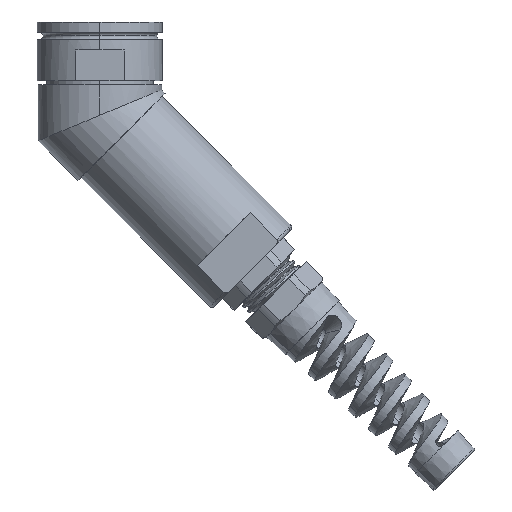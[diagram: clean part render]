
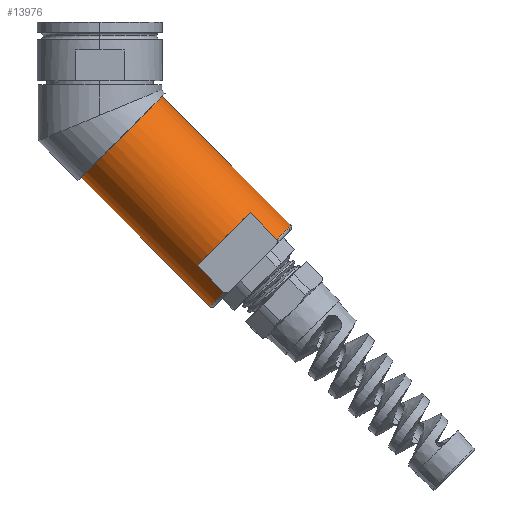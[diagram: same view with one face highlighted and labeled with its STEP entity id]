
A CAD part, left-side view. The second image highlights one B-rep face of the part: STEP entity #13976.
In plain terms, the highlighted cylindrical face has radius 17.691 mm (diameter 35.382 mm), a partial arc.
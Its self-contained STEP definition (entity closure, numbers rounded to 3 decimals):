
#348 = DIRECTION ( 'NONE',  ( 0., -0.707, -0.707 ) ) ;
#579 = ORIENTED_EDGE ( 'NONE', *, *, #741, .T. ) ;
#689 = DIRECTION ( 'NONE',  ( 0., 0.707, 0.707 ) ) ;
#741 = EDGE_CURVE ( 'NONE', #14607, #3792, #10636, .T. ) ;
#964 = VERTEX_POINT ( 'NONE', #9807 ) ;
#1432 = CARTESIAN_POINT ( 'NONE',  ( -13.399, -38.303, -77.766 ) ) ;
#1998 = EDGE_CURVE ( 'NONE', #964, #5465, #7662, .T. ) ;
#2033 = DIRECTION ( 'NONE',  ( 0., -0.707, 0.707 ) ) ;
#2212 = VECTOR ( 'NONE', #10163, 1000. ) ;
#2358 = CIRCLE ( 'NONE', #10266, 17.691 ) ;
#2501 = CARTESIAN_POINT ( 'NONE',  ( 0., -33.962, -82.107 ) ) ;
#2654 = AXIS2_PLACEMENT_3D ( 'NONE', #9694, #14736, #11108 ) ;
#2717 = EDGE_LOOP ( 'NONE', ( #5818, #579, #12016, #8817, #12590, #12023, #12906, #5721 ) ) ;
#2787 = CARTESIAN_POINT ( 'NONE',  ( -13.399, -30.041, -69.504 ) ) ;
#2887 = DIRECTION ( 'NONE',  ( 0., -0.707, 0.707 ) ) ;
#2912 = CIRCLE ( 'NONE', #13988, 17.691 ) ;
#3131 = VERTEX_POINT ( 'NONE', #13291 ) ;
#3379 = LINE ( 'NONE', #9711, #7545 ) ;
#3653 = LINE ( 'NONE', #10159, #8720 ) ;
#3792 = VERTEX_POINT ( 'NONE', #1432 ) ;
#3907 = DIRECTION ( 'NONE',  ( 0., -0.707, 0.707 ) ) ;
#4469 = CARTESIAN_POINT ( 'NONE',  ( 0., 5.766, -42.378 ) ) ;
#4532 = EDGE_CURVE ( 'NONE', #6405, #3131, #2358, .T. ) ;
#4564 = AXIS2_PLACEMENT_3D ( 'NONE', #10178, #8007, #3907 ) ;
#4666 = CYLINDRICAL_SURFACE ( 'NONE', #2654, 17.691 ) ;
#5279 = CARTESIAN_POINT ( 'NONE',  ( -13.399, -54.641, -61.429 ) ) ;
#5465 = VERTEX_POINT ( 'NONE', #5279 ) ;
#5721 = ORIENTED_EDGE ( 'NONE', *, *, #4532, .F. ) ;
#5818 = ORIENTED_EDGE ( 'NONE', *, *, #8641, .F. ) ;
#5881 = FACE_OUTER_BOUND ( 'NONE', #2717, .T. ) ;
#6405 = VERTEX_POINT ( 'NONE', #4469 ) ;
#6515 = EDGE_CURVE ( 'NONE', #8493, #3792, #3653, .T. ) ;
#6666 = CARTESIAN_POINT ( 'NONE',  ( 0., -38.21, -61.336 ) ) ;
#7545 = VECTOR ( 'NONE', #8398, 1000. ) ;
#7546 = EDGE_CURVE ( 'NONE', #9447, #3131, #11995, .T. ) ;
#7662 = LINE ( 'NONE', #13955, #2212 ) ;
#8007 = DIRECTION ( 'NONE',  ( 0., 0.707, 0.707 ) ) ;
#8398 = DIRECTION ( 'NONE',  ( 0., 0.707, 0.707 ) ) ;
#8493 = VERTEX_POINT ( 'NONE', #2787 ) ;
#8641 = EDGE_CURVE ( 'NONE', #14607, #6405, #3379, .T. ) ;
#8720 = VECTOR ( 'NONE', #11401, 1000. ) ;
#8731 = VECTOR ( 'NONE', #689, 1000. ) ;
#8817 = ORIENTED_EDGE ( 'NONE', *, *, #11128, .F. ) ;
#9201 = AXIS2_PLACEMENT_3D ( 'NONE', #6666, #348, #2887 ) ;
#9447 = VERTEX_POINT ( 'NONE', #15152 ) ;
#9538 = DIRECTION ( 'NONE',  ( 0., 0.707, 0.707 ) ) ;
#9694 = CARTESIAN_POINT ( 'NONE',  ( 0., -6.743, -29.869 ) ) ;
#9711 = CARTESIAN_POINT ( 'NONE',  ( 0., 5.766, -42.378 ) ) ;
#9807 = CARTESIAN_POINT ( 'NONE',  ( -13.399, -46.379, -53.167 ) ) ;
#10159 = CARTESIAN_POINT ( 'NONE',  ( -13.399, -30.041, -69.504 ) ) ;
#10163 = DIRECTION ( 'NONE',  ( 0., -0.707, -0.707 ) ) ;
#10178 = CARTESIAN_POINT ( 'NONE',  ( 0., -46.472, -69.597 ) ) ;
#10266 = AXIS2_PLACEMENT_3D ( 'NONE', #11805, #13035, #12192 ) ;
#10636 = CIRCLE ( 'NONE', #4564, 17.691 ) ;
#10999 = CARTESIAN_POINT ( 'NONE',  ( 0., -19.253, -17.359 ) ) ;
#11108 = DIRECTION ( 'NONE',  ( 0., -0.707, 0.707 ) ) ;
#11128 = EDGE_CURVE ( 'NONE', #964, #8493, #13676, .T. ) ;
#11401 = DIRECTION ( 'NONE',  ( 0., -0.707, -0.707 ) ) ;
#11805 = CARTESIAN_POINT ( 'NONE',  ( 0., -6.743, -29.869 ) ) ;
#11995 = LINE ( 'NONE', #10999, #8731 ) ;
#12016 = ORIENTED_EDGE ( 'NONE', *, *, #6515, .F. ) ;
#12023 = ORIENTED_EDGE ( 'NONE', *, *, #13743, .T. ) ;
#12192 = DIRECTION ( 'NONE',  ( 0., -0.707, 0.707 ) ) ;
#12590 = ORIENTED_EDGE ( 'NONE', *, *, #1998, .T. ) ;
#12906 = ORIENTED_EDGE ( 'NONE', *, *, #7546, .T. ) ;
#13035 = DIRECTION ( 'NONE',  ( 0., 0.707, 0.707 ) ) ;
#13291 = CARTESIAN_POINT ( 'NONE',  ( 0., -19.253, -17.359 ) ) ;
#13334 = CARTESIAN_POINT ( 'NONE',  ( 0., -46.472, -69.597 ) ) ;
#13676 = CIRCLE ( 'NONE', #9201, 17.691 ) ;
#13743 = EDGE_CURVE ( 'NONE', #5465, #9447, #2912, .T. ) ;
#13955 = CARTESIAN_POINT ( 'NONE',  ( -13.399, -46.379, -53.167 ) ) ;
#13976 = ADVANCED_FACE ( 'NONE', ( #5881 ), #4666, .T. ) ;
#13988 = AXIS2_PLACEMENT_3D ( 'NONE', #13334, #9538, #2033 ) ;
#14607 = VERTEX_POINT ( 'NONE', #2501 ) ;
#14736 = DIRECTION ( 'NONE',  ( 0., 0.707, 0.707 ) ) ;
#15152 = CARTESIAN_POINT ( 'NONE',  ( 0., -58.981, -57.088 ) ) ;
